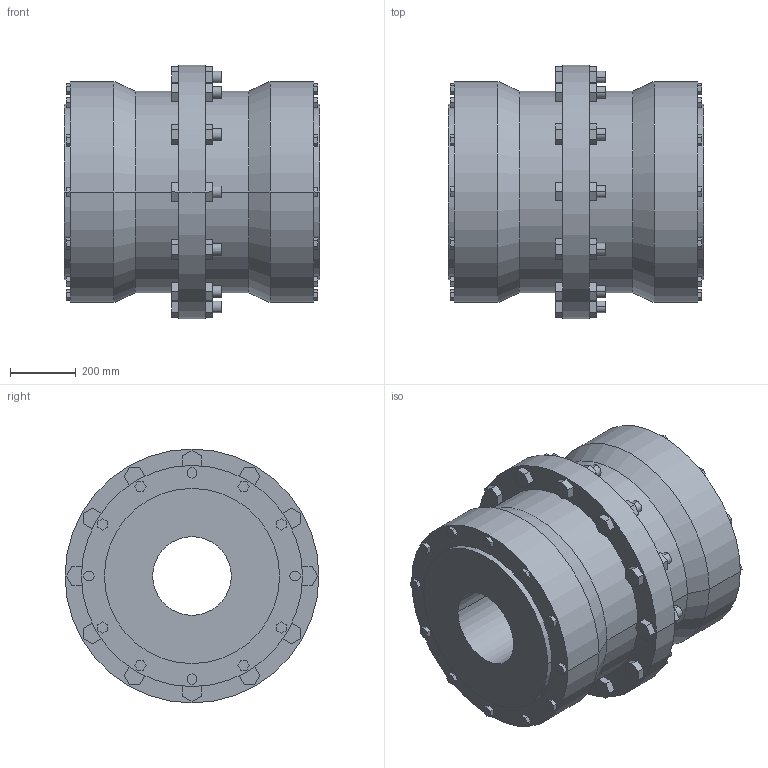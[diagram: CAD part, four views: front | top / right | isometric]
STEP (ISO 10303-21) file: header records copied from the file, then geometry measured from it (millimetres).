
FILE_DESCRIPTION((''),'2;1');
FILE_NAME('A18987100-0_ASM','2018-09-26T',('AB_Roschiwal'),('RENK AG'),'PRO/ENGINEER BY PARAMETRIC TECHNOLOGY CORPORATION, 2015440','PRO/ENGINEER BY PARAMETRIC TECHNOLOGY CORPORATION, 2015440','');
FILE_SCHEMA(('CONFIG_CONTROL_DESIGN'));
Length unit declared in the file: millimetre
Products named in the file (3): SBK335_GEHAEUSE; SBK335_NABE; A18987100-0_ASM
Assembly tree (3 placements, depth 2):
  A18987100-0_ASM
    SBK335_GEHAEUSE
    SBK335_NABE  x2
Bounding box: 780 x 775 x 775 mm (x, y, z)
Volume: 218334416.3 mm3; surface area: 6315943.7 mm2
Topology: 3 solids, 3 shells, 422 faces, 1036 edges, 688 vertices
Faces by surface type: plane 362, cylinder 56, cone 4
Entity records: 12052 total; most frequent: CARTESIAN_POINT 2100, ORIENTED_EDGE 2024, DIRECTION 1940, EDGE_CURVE 1012, VECTOR 916, LINE 916, VERTEX_POINT 672, AXIS2_PLACEMENT_3D 512
